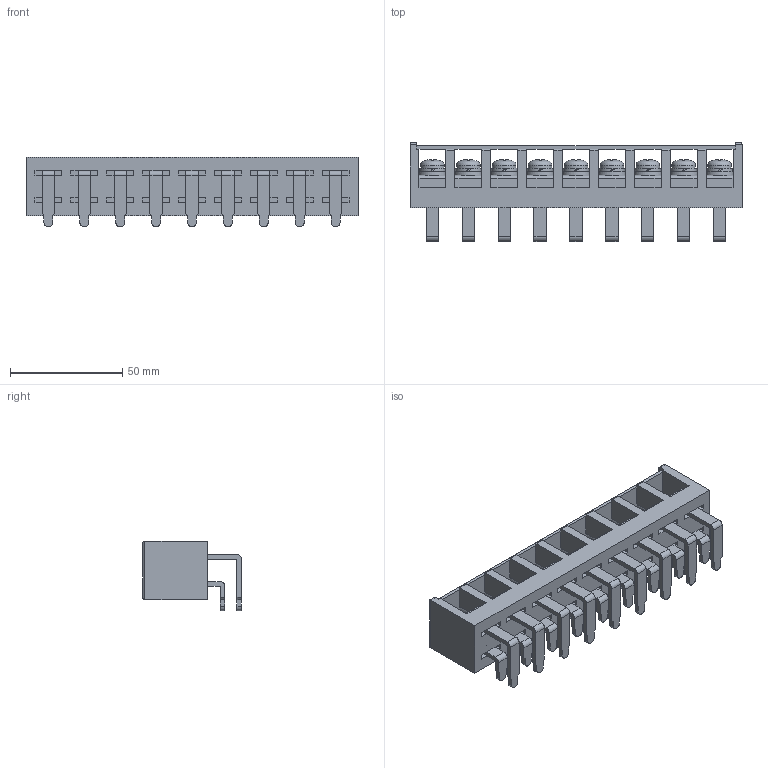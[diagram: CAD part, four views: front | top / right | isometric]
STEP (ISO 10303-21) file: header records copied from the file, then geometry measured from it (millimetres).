
FILE_DESCRIPTION(/* description */ ('Alibre Inc.'),/* implementation_level */ '2;1');
FILE_NAME(/* name */ 'export-4EA83443-98A4-4CB0-BBD7-2A588B4BEDE2',/* time_stamp */ '2025-01-30T14:28:03+09:00',/* author */ (''),/* organization */ (''),/* preprocessor_version */ 'ST-DEVELOPER v17',/* originating_system */ 'Alibre',/* authorisation */ '');
FILE_SCHEMA (('CONFIG_CONTROL_DESIGN'));
Length unit declared in the file: millimetre
Bounding box: 148 x 44.1 x 31 mm (x, y, z)
Volume: 74970.4 mm3; surface area: 43640.8 mm2
Topology: 1 solids, 2 shells, 1179 faces, 3342 edges, 2180 vertices
Faces by surface type: plane 826, bspline 150, cylinder 148, cone 37, torus 9, sphere 9
Full cylindrical faces by diameter (mm): 6 x1, 10.5 x9, 12.5 x8
Entity records: 35452 total; most frequent: CARTESIAN_POINT 7837, ORIENTED_EDGE 6594, DIRECTION 4225, EDGE_CURVE 3297, VERTEX_POINT 2163, VECTOR 2137, LINE 2137, AXIS2_PLACEMENT_3D 1377
